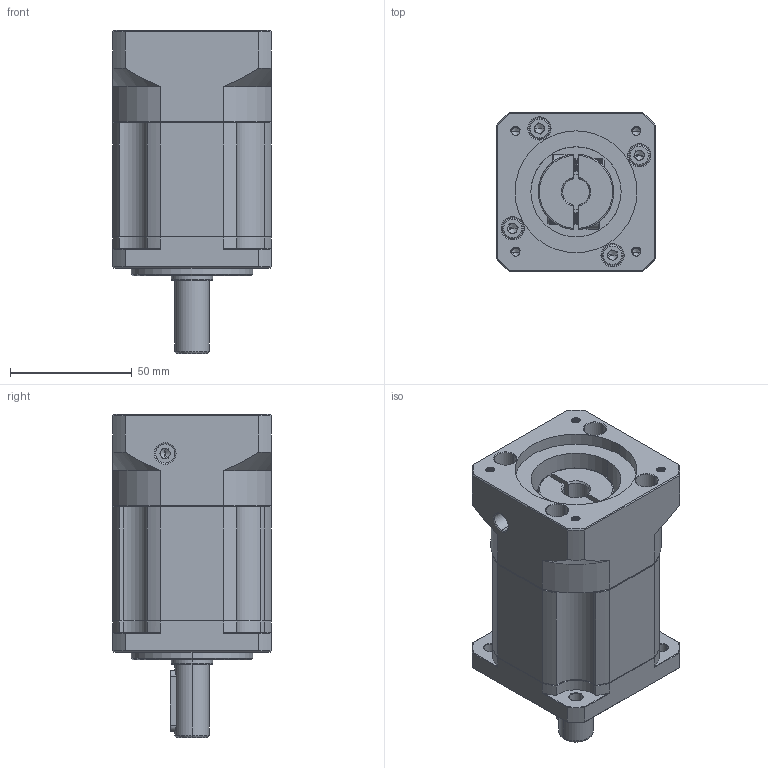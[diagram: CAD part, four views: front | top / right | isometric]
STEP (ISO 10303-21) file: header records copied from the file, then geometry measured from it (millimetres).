
FILE_DESCRIPTION (( 'STEP AP214' ), '1' );
FILE_NAME ('ZB060-D14-L2-P2-11-50-70-M4.step', '2023-08-16T07:00:44', ( '' ), ( '' ), 'SwSTEP 2.0', 'SolidWorks 2016', '' );
FILE_SCHEMA (( 'AUTOMOTIVE_DESIGN' ));
Length unit declared in the file: millimetre
Products named in the file (1): ZB060-D14-L2-P2-11-50-70-M4
Bounding box: 65 x 65 x 132.5 mm (x, y, z)
Volume: 329879.5 mm3; surface area: 58529 mm2
Topology: 6 solids, 6 shells, 2152 faces, 5796 edges, 3732 vertices
Faces by surface type: plane 1059, bspline 397, cylinder 381, cone 279, torus 36
Entity records: 114702 total; most frequent: CARTESIAN_POINT 40149, ORIENTED_EDGE 11532, DIRECTION 9082, EDGE_CURVE 5766, VERTEX_POINT 3732, VECTOR 3632, LINE 3632, AXIS2_PLACEMENT_3D 2725
